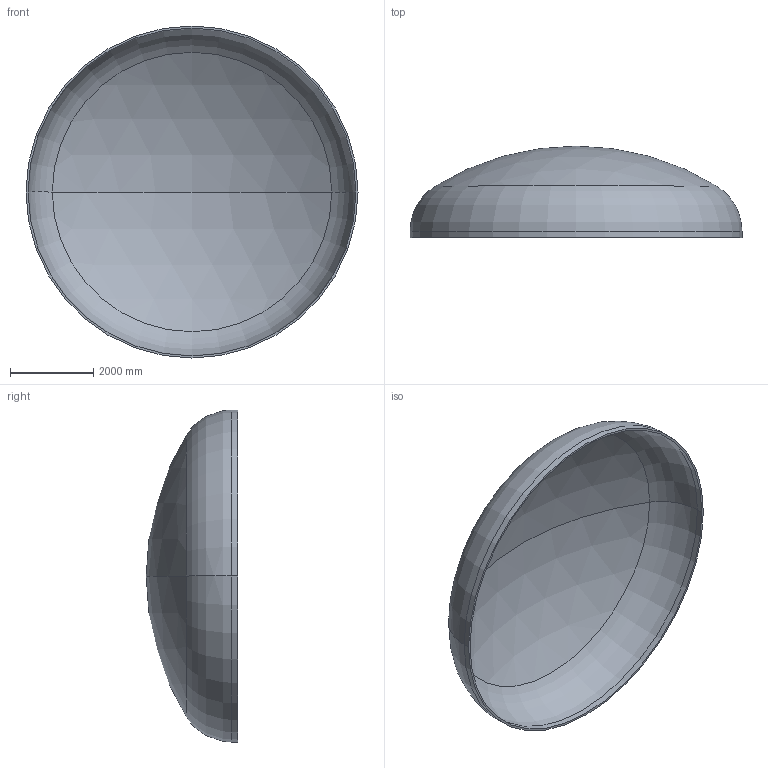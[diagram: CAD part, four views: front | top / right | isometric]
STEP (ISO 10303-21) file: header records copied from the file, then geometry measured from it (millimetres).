
FILE_DESCRIPTION (( 'STEP AP203' ), '1' );
FILE_NAME ('DIN 28013 Korbbogenform_-_Boden DIN 28013 - 8000 x 150 - I - s=50.step', '2016-07-04T11:02:22', ( '' ), ( '' ), 'SwSTEP 2.0', 'SolidWorks 2013', '' );
FILE_SCHEMA (( 'CONFIG_CONTROL_DESIGN' ));
Length unit declared in the file: millimetre
Products named in the file (1): DIN 28013 Korbbogenform_-_Boden DIN 28013 - 8000 x 150 - I - s=50
Bounding box: 8000 x 2203.35 x 8000 mm (x, y, z)
Volume: 3638495895.8 mm3; surface area: 146793798.2 mm2
Topology: 1 solids, 1 shells, 13 faces, 24 edges, 14 vertices
Faces by surface type: torus 4, cylinder 4, sphere 4, plane 1
Entity records: 407 total; most frequent: DIRECTION 72, CARTESIAN_POINT 52, ORIENTED_EDGE 48, AXIS2_PLACEMENT_3D 34, EDGE_CURVE 24, CIRCLE 20, EDGE_LOOP 14, VERTEX_POINT 14
